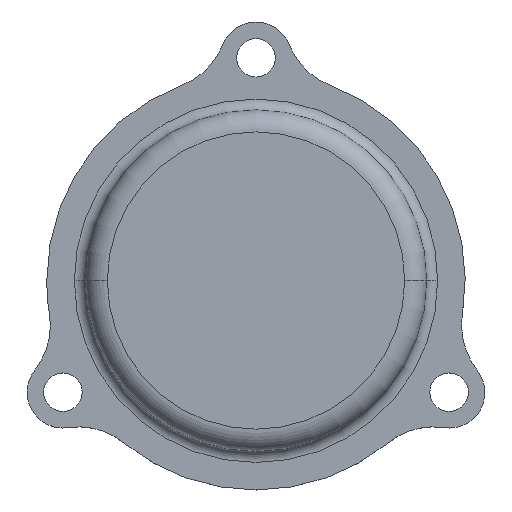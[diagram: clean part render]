
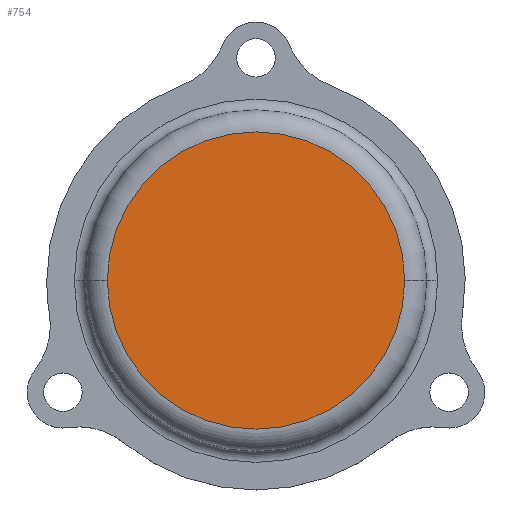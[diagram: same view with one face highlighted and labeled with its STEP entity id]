
A CAD part, top view. The second image highlights one B-rep face of the part: STEP entity #754.
In plain terms, the highlighted planar face has unit normal (0, 0, 1).
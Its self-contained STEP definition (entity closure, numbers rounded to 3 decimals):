
#55 = CIRCLE ( 'NONE', #653, 27. ) ;
#80 = FACE_OUTER_BOUND ( 'NONE', #250, .T. ) ;
#201 = ORIENTED_EDGE ( 'NONE', *, *, #694, .T. ) ;
#250 = EDGE_LOOP ( 'NONE', ( #343, #201 ) ) ;
#284 = CIRCLE ( 'NONE', #535, 27. ) ;
#295 = VERTEX_POINT ( 'NONE', #833 ) ;
#321 = VERTEX_POINT ( 'NONE', #797 ) ;
#343 = ORIENTED_EDGE ( 'NONE', *, *, #606, .T. ) ;
#535 = AXIS2_PLACEMENT_3D ( 'NONE', #1046, #958, #1148 ) ;
#576 = AXIS2_PLACEMENT_3D ( 'NONE', #943, #1039, #936 ) ;
#606 = EDGE_CURVE ( 'NONE', #321, #295, #284, .T. ) ;
#653 = AXIS2_PLACEMENT_3D ( 'NONE', #860, #1132, #1168 ) ;
#694 = EDGE_CURVE ( 'NONE', #295, #321, #55, .T. ) ;
#754 = ADVANCED_FACE ( 'NONE', ( #80 ), #935, .T. ) ;
#797 = CARTESIAN_POINT ( 'NONE',  ( 27., 0., 27. ) ) ;
#833 = CARTESIAN_POINT ( 'NONE',  ( -27., 0., 27. ) ) ;
#860 = CARTESIAN_POINT ( 'NONE',  ( 0., 0., 27. ) ) ;
#935 = PLANE ( 'NONE',  #576 ) ;
#936 = DIRECTION ( 'NONE',  ( 1., 0., 0. ) ) ;
#943 = CARTESIAN_POINT ( 'NONE',  ( 0., 0., 27. ) ) ;
#958 = DIRECTION ( 'NONE',  ( 0., 0., 1. ) ) ;
#1039 = DIRECTION ( 'NONE',  ( 0., 0., 1. ) ) ;
#1046 = CARTESIAN_POINT ( 'NONE',  ( 0., 0., 27. ) ) ;
#1132 = DIRECTION ( 'NONE',  ( 0., 0., 1. ) ) ;
#1148 = DIRECTION ( 'NONE',  ( 1., 0., 0. ) ) ;
#1168 = DIRECTION ( 'NONE',  ( 1., 0., 0. ) ) ;
